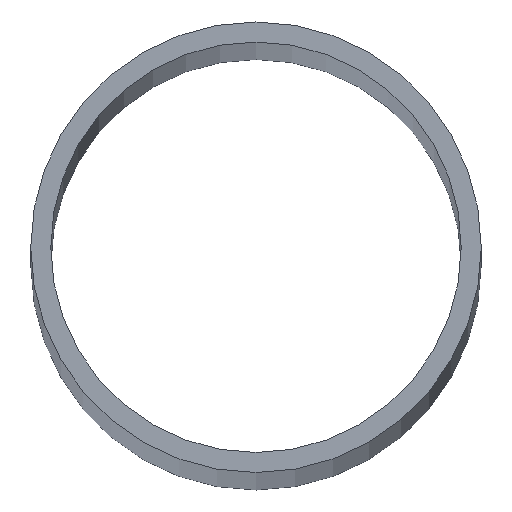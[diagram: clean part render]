
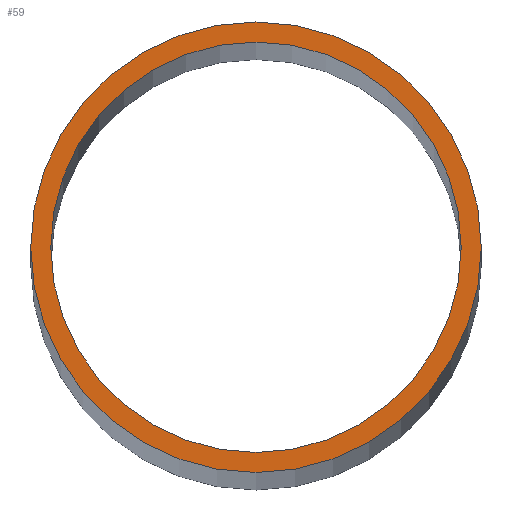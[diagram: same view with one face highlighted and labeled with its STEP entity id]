
A CAD part, top view. The second image highlights one B-rep face of the part: STEP entity #59.
In plain terms, the highlighted planar face has unit normal (0, 0, 1).
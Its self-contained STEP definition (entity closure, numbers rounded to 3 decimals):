
#12=PLANE($,#70);
#16=FACE_BOUND($,#26,.T.);
#17=FACE_BOUND($,#27,.T.);
#26=EDGE_LOOP($,(#46));
#27=EDGE_LOOP($,(#47));
#30=CIRCLE($,#65,61.5);
#32=CIRCLE($,#68,67.5);
#34=VERTEX_POINT($,#92);
#36=VERTEX_POINT($,#97);
#38=EDGE_CURVE($,#34,#34,#30,.T.);
#40=EDGE_CURVE($,#36,#36,#32,.T.);
#46=ORIENTED_EDGE($,*,*,#38,.T.);
#47=ORIENTED_EDGE($,*,*,#40,.F.);
#59=ADVANCED_FACE($,(#16,#17),#12,.F.);
#65=AXIS2_PLACEMENT_3D($,#93,#76,#77);
#68=AXIS2_PLACEMENT_3D($,#98,#82,#83);
#70=AXIS2_PLACEMENT_3D($,#101,#86,#87);
#76=DIRECTION('center_axis',(0.,0.,-1.));
#77=DIRECTION('ref_axis',(-1.,0.,0.));
#82=DIRECTION('center_axis',(0.,0.,-1.));
#83=DIRECTION('ref_axis',(-1.,0.,0.));
#86=DIRECTION('center_axis',(0.,0.,-1.));
#87=DIRECTION('ref_axis',(-1.,0.,0.));
#92=CARTESIAN_POINT('',(61.5,0.,3000.));
#93=CARTESIAN_POINT('Origin',(0.,0.,3000.));
#97=CARTESIAN_POINT('',(67.5,0.,3000.));
#98=CARTESIAN_POINT('Origin',(0.,0.,3000.));
#101=CARTESIAN_POINT('Origin',(0.,0.,3000.));
